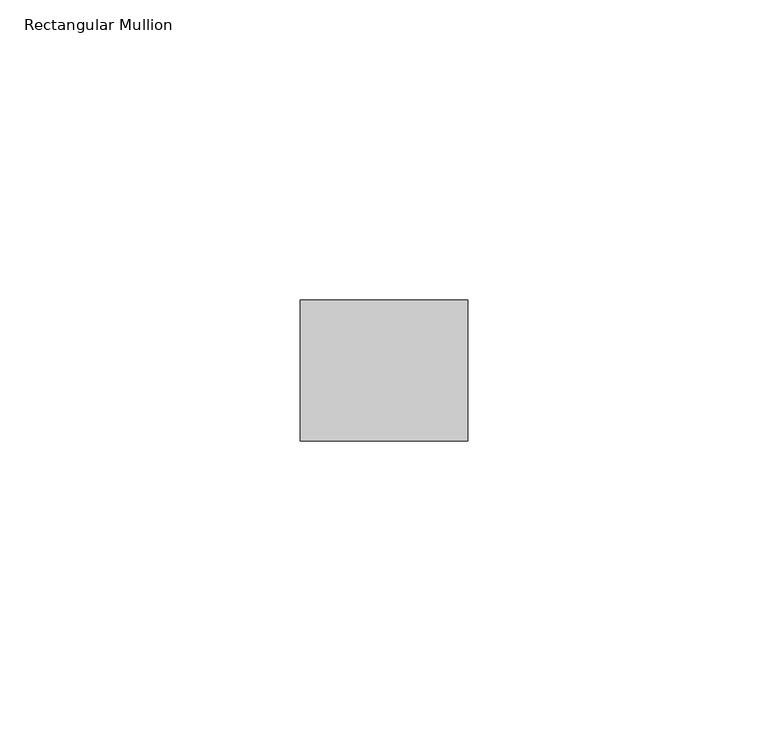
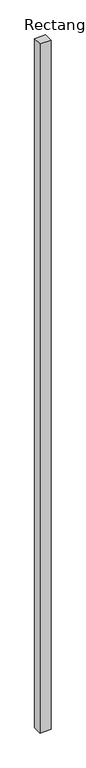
"""IFC4 building model written with IfcOpenShell, lengths in millimetres: member geometry, Rectangular Mullion : Lite Scale Glasing - Base Trim."""

from ifc_helpers import new_model, si_unit, frame, origin, place, context, project, spatial, polyline, outline, extrude, source, transform, mapped, element, save


def rectangular_mullion_12d4d7d7(model_context):
    return source(origin(), model_context, "Body", "SweptSolid", [
        extrude(outline(polyline([(0.0, -11.7474999), (-27.94, -11.7474999), (-27.94, 11.7474999), (0.0, 11.7474999), (0.0, -11.7474999)])), frame((0.0, 0.0, -1854.2), z_axis=(0.0, 0.0, 1.0), x_axis=(1.0, 0.0, 0.0)), (0.0, 0.0, 1.0), 1854.2),
    ])


if __name__ == "__main__":
    model = new_model("IFC4")
    model_context = context("Model", 3, world=origin())
    ifc_project = project(units=[si_unit("LENGTHUNIT", "METRE", prefix="MILLI")], contexts=[model_context])
    site = spatial("IfcSite", under=ifc_project)
    building = spatial("IfcBuilding", under=site)
    placement = place(None, origin())
    rectangular_mullion_shape = rectangular_mullion_12d4d7d7(model_context)
    element("IfcMember", 1, ObjectType="Rectangular Mullion : Lite Scale Glasing - Base Trim", at=placement, inside=building, context=model_context, shape_type="MappedRepresentation", body=[
        mapped(rectangular_mullion_shape, transform((0.0, 0.0, 0.0), x_axis=(1.0, 0.0, 0.0), y_axis=(0.0, 1.0, 0.0), z_axis=(0.0, 0.0, 1.0))),
    ])
    save(model, "model.ifc")
